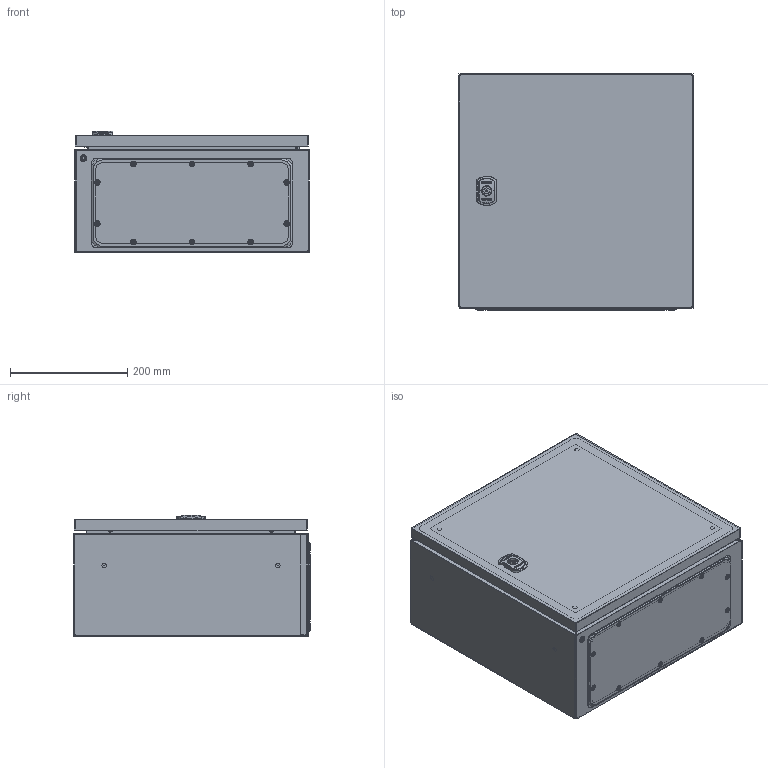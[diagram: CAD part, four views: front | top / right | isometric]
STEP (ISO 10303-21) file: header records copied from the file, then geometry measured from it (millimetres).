
FILE_DESCRIPTION(('Open CASCADE Model'),'2;1');
FILE_NAME('Open CASCADE Shape Model','2025-02-28T16:18:57',('Author'),( 'Open CASCADE'),'Open CASCADE STEP processor 7.8','Open CASCADE 7.8' ,'Unknown');
FILE_SCHEMA(('AUTOMOTIVE_DESIGN { 1 0 10303 214 1 1 1 1 }'));
Length unit declared in the file: millimetre
Products named in the file (32): Compound1; Compound2; Compound3; Compound4; Solid1; Solid2; Solid3; Solid4; Compound5; Solid5; Solid6; Solid7; Solid8; Compound6; Solid9; Solid10; Compound7; Compound8; Solid11; Solid12; Compound9; Solid13; Solid14; Solid15; Solid16; Solid17; Solid18; Solid19; Solid20; Solid21; Solid22; Solid23
Assembly tree (63 placements, depth 5):
  Compound1
    Compound2
      Compound3
        Compound4
          Solid1
          Solid2
          Solid3  x4
          Solid4  x4
        Compound5  x2
          Solid5
        Solid6  x2
        Solid7  x2
        Solid8  x2
      Compound6
        Solid9
        Solid10
      Compound7
        Compound8
          Solid11
          Solid12  x4
        Compound9
          Solid13
          Solid14
          Solid15
          Solid16
          Solid17
        Solid18
      Solid19  x4
      Solid20  x4
      Solid21
      Solid22  x2
    Solid23  x5
    Solid22  x8
Bounding box: 400 x 403.5 x 207.71 mm (x, y, z)
Volume: 1281197.2 mm3; surface area: 1790294.6 mm2
Topology: 55 solids, 55 shells, 3242 faces, 8137 edges, 5121 vertices
Faces by surface type: plane 1487, cylinder 808, bspline 337, cone 290, torus 280, sphere 36, revolution 4
Full cylindrical faces by diameter (mm): 5.5 x4, 6.8 x1, 8 x1
Entity records: 170270 total; most frequent: CARTESIAN_POINT 111518, ORIENTED_EDGE 12556, DIRECTION 11500, EDGE_CURVE 6277, VERTEX_POINT 4020, AXIS2_PLACEMENT_3D 4008, LINE 3480, VECTOR 3480
